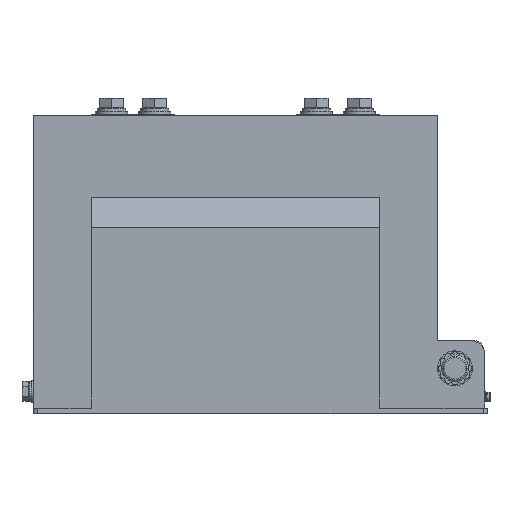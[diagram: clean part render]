
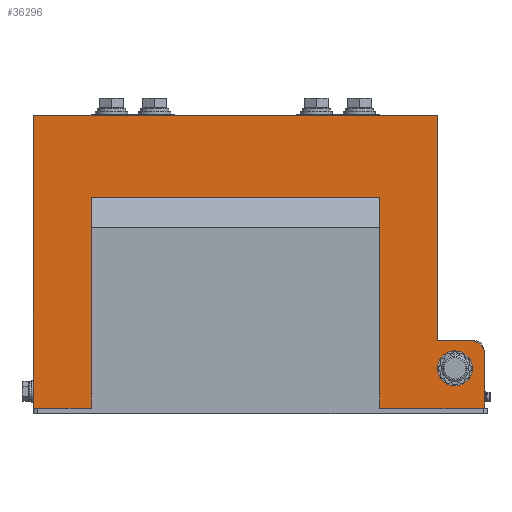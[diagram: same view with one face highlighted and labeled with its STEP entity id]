
A CAD part, top view. The second image highlights one B-rep face of the part: STEP entity #36296.
In plain terms, the highlighted planar face has unit normal (0, 0, 1).
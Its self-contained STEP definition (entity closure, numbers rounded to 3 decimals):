
#1321 = LINE ( 'NONE', #3038, #8954 ) ;
#1396 = VECTOR ( 'NONE', #25327, 1000. ) ;
#1553 = VECTOR ( 'NONE', #5542, 1000. ) ;
#1944 = AXIS2_PLACEMENT_3D ( 'NONE', #9623, #29611, #12498 ) ;
#2005 = DIRECTION ( 'NONE',  ( -1., 0., 0. ) ) ;
#2296 = LINE ( 'NONE', #8063, #1396 ) ;
#2789 = VERTEX_POINT ( 'NONE', #4777 ) ;
#3038 = CARTESIAN_POINT ( 'NONE',  ( 0., 156., 52. ) ) ;
#3381 = CARTESIAN_POINT ( 'NONE',  ( 185., 40., 52. ) ) ;
#3722 = CARTESIAN_POINT ( 'NONE',  ( 0., 0., 52. ) ) ;
#4267 = VECTOR ( 'NONE', #19962, 1000. ) ;
#4452 = VERTEX_POINT ( 'NONE', #3381 ) ;
#4492 = ORIENTED_EDGE ( 'NONE', *, *, #6462, .T. ) ;
#4506 = CARTESIAN_POINT ( 'NONE',  ( -150., 0., 52. ) ) ;
#4777 = CARTESIAN_POINT ( 'NONE',  ( -107., 0., 52. ) ) ;
#5542 = DIRECTION ( 'NONE',  ( -1., 0., 0. ) ) ;
#6462 = EDGE_CURVE ( 'NONE', #32813, #2789, #32285, .T. ) ;
#6899 = CARTESIAN_POINT ( 'NONE',  ( 185., 0., 52. ) ) ;
#7455 = CARTESIAN_POINT ( 'NONE',  ( 185., 0., 52. ) ) ;
#7693 = VECTOR ( 'NONE', #34810, 1000. ) ;
#8063 = CARTESIAN_POINT ( 'NONE',  ( 130., 50., 52. ) ) ;
#8202 = CARTESIAN_POINT ( 'NONE',  ( 0., 0., 52. ) ) ;
#8205 = ORIENTED_EDGE ( 'NONE', *, *, #32433, .T. ) ;
#8341 = DIRECTION ( 'NONE',  ( 0., 0., 1. ) ) ;
#8387 = EDGE_CURVE ( 'NONE', #32224, #4452, #19193, .T. ) ;
#8954 = VECTOR ( 'NONE', #20178, 1000. ) ;
#9034 = VERTEX_POINT ( 'NONE', #24592 ) ;
#9057 = ORIENTED_EDGE ( 'NONE', *, *, #24294, .F. ) ;
#9063 = FACE_BOUND ( 'NONE', #33711, .T. ) ;
#9623 = CARTESIAN_POINT ( 'NONE',  ( 0., 0., 52. ) ) ;
#9893 = EDGE_CURVE ( 'NONE', #4452, #13037, #20052, .T. ) ;
#10129 = VERTEX_POINT ( 'NONE', #20685 ) ;
#10267 = CIRCLE ( 'NONE', #32062, 13. ) ;
#11091 = DIRECTION ( 'NONE',  ( 1., 0., 0. ) ) ;
#12498 = DIRECTION ( 'NONE',  ( 1., 0., 0. ) ) ;
#12841 = EDGE_CURVE ( 'NONE', #32813, #30106, #15308, .T. ) ;
#12919 = DIRECTION ( 'NONE',  ( 0., 0., 1. ) ) ;
#13037 = VERTEX_POINT ( 'NONE', #24123 ) ;
#13364 = DIRECTION ( 'NONE',  ( 0., 1., 0. ) ) ;
#14404 = VECTOR ( 'NONE', #20859, 1000. ) ;
#14466 = EDGE_CURVE ( 'NONE', #19683, #9034, #1321, .T. ) ;
#14831 = VECTOR ( 'NONE', #11091, 1000. ) ;
#15063 = VERTEX_POINT ( 'NONE', #24699 ) ;
#15238 = CARTESIAN_POINT ( 'NONE',  ( 176., 29.5, 52. ) ) ;
#15308 = LINE ( 'NONE', #31923, #7693 ) ;
#15317 = AXIS2_PLACEMENT_3D ( 'NONE', #30028, #12919, #32932 ) ;
#15537 = DIRECTION ( 'NONE',  ( 0., 1., 0. ) ) ;
#17699 = VERTEX_POINT ( 'NONE', #20779 ) ;
#19119 = DIRECTION ( 'NONE',  ( 0., 0., 1. ) ) ;
#19193 = LINE ( 'NONE', #6899, #25897 ) ;
#19483 = CARTESIAN_POINT ( 'NONE',  ( -150., 217., 52. ) ) ;
#19683 = VERTEX_POINT ( 'NONE', #25849 ) ;
#19962 = DIRECTION ( 'NONE',  ( 0., 1., 0. ) ) ;
#20052 = CIRCLE ( 'NONE', #31063, 10. ) ;
#20178 = DIRECTION ( 'NONE',  ( 1., 0., 0. ) ) ;
#20620 = ORIENTED_EDGE ( 'NONE', *, *, #8387, .T. ) ;
#20685 = CARTESIAN_POINT ( 'NONE',  ( 150., 29.5, 52. ) ) ;
#20779 = CARTESIAN_POINT ( 'NONE',  ( 107., 0., 52. ) ) ;
#20859 = DIRECTION ( 'NONE',  ( 1., 0., 0. ) ) ;
#21897 = VECTOR ( 'NONE', #30609, 1000. ) ;
#22172 = ORIENTED_EDGE ( 'NONE', *, *, #31763, .T. ) ;
#22924 = EDGE_CURVE ( 'NONE', #25852, #13037, #2296, .T. ) ;
#22928 = EDGE_CURVE ( 'NONE', #17699, #32224, #30044, .T. ) ;
#23291 = ORIENTED_EDGE ( 'NONE', *, *, #29019, .T. ) ;
#24123 = CARTESIAN_POINT ( 'NONE',  ( 175., 50., 52. ) ) ;
#24241 = FACE_OUTER_BOUND ( 'NONE', #35923, .T. ) ;
#24262 = ORIENTED_EDGE ( 'NONE', *, *, #35108, .F. ) ;
#24294 = EDGE_CURVE ( 'NONE', #36272, #10129, #10267, .T. ) ;
#24592 = CARTESIAN_POINT ( 'NONE',  ( 107., 156., 52. ) ) ;
#24699 = CARTESIAN_POINT ( 'NONE',  ( 150., 217., 52. ) ) ;
#25327 = DIRECTION ( 'NONE',  ( 1., 0., 0. ) ) ;
#25445 = CARTESIAN_POINT ( 'NONE',  ( 150., 50., 52. ) ) ;
#25449 = CARTESIAN_POINT ( 'NONE',  ( 175., 40., 52. ) ) ;
#25589 = ORIENTED_EDGE ( 'NONE', *, *, #9893, .T. ) ;
#25849 = CARTESIAN_POINT ( 'NONE',  ( -107., 156., 52. ) ) ;
#25852 = VERTEX_POINT ( 'NONE', #25445 ) ;
#25897 = VECTOR ( 'NONE', #15537, 1000. ) ;
#26189 = LINE ( 'NONE', #37093, #4267 ) ;
#26428 = LINE ( 'NONE', #30495, #34091 ) ;
#27825 = CARTESIAN_POINT ( 'NONE',  ( -107., 0., 52. ) ) ;
#28335 = DIRECTION ( 'NONE',  ( -1., 0., 0. ) ) ;
#28429 = CARTESIAN_POINT ( 'NONE',  ( 0., 217., 52. ) ) ;
#28992 = PLANE ( 'NONE',  #1944 ) ;
#29019 = EDGE_CURVE ( 'NONE', #2789, #19683, #37096, .T. ) ;
#29611 = DIRECTION ( 'NONE',  ( 0., 0., 1. ) ) ;
#30028 = CARTESIAN_POINT ( 'NONE',  ( 163., 29.5, 52. ) ) ;
#30044 = LINE ( 'NONE', #8202, #14831 ) ;
#30106 = VERTEX_POINT ( 'NONE', #19483 ) ;
#30495 = CARTESIAN_POINT ( 'NONE',  ( 107., 0., 52. ) ) ;
#30609 = DIRECTION ( 'NONE',  ( 0., 1., 0. ) ) ;
#30999 = ORIENTED_EDGE ( 'NONE', *, *, #34397, .F. ) ;
#31063 = AXIS2_PLACEMENT_3D ( 'NONE', #25449, #8341, #28335 ) ;
#31470 = ORIENTED_EDGE ( 'NONE', *, *, #14466, .T. ) ;
#31763 = EDGE_CURVE ( 'NONE', #25852, #15063, #26189, .T. ) ;
#31923 = CARTESIAN_POINT ( 'NONE',  ( -150., 0., 52. ) ) ;
#31979 = LINE ( 'NONE', #28429, #1553 ) ;
#32062 = AXIS2_PLACEMENT_3D ( 'NONE', #36253, #19119, #2005 ) ;
#32224 = VERTEX_POINT ( 'NONE', #7455 ) ;
#32285 = LINE ( 'NONE', #3722, #14404 ) ;
#32433 = EDGE_CURVE ( 'NONE', #15063, #30106, #31979, .T. ) ;
#32813 = VERTEX_POINT ( 'NONE', #4506 ) ;
#32932 = DIRECTION ( 'NONE',  ( -1., 0., 0. ) ) ;
#33711 = EDGE_LOOP ( 'NONE', ( #9057, #30999 ) ) ;
#34091 = VECTOR ( 'NONE', #13364, 1000. ) ;
#34397 = EDGE_CURVE ( 'NONE', #10129, #36272, #35912, .T. ) ;
#34810 = DIRECTION ( 'NONE',  ( 0., 1., 0. ) ) ;
#34921 = ORIENTED_EDGE ( 'NONE', *, *, #12841, .F. ) ;
#35108 = EDGE_CURVE ( 'NONE', #17699, #9034, #26428, .T. ) ;
#35912 = CIRCLE ( 'NONE', #15317, 13. ) ;
#35923 = EDGE_LOOP ( 'NONE', ( #36053, #22172, #8205, #34921, #4492, #23291, #31470, #24262, #36121, #20620, #25589 ) ) ;
#36053 = ORIENTED_EDGE ( 'NONE', *, *, #22924, .F. ) ;
#36121 = ORIENTED_EDGE ( 'NONE', *, *, #22928, .T. ) ;
#36253 = CARTESIAN_POINT ( 'NONE',  ( 163., 29.5, 52. ) ) ;
#36272 = VERTEX_POINT ( 'NONE', #15238 ) ;
#36296 = ADVANCED_FACE ( 'NONE', ( #24241, #9063 ), #28992, .T. ) ;
#37093 = CARTESIAN_POINT ( 'NONE',  ( 150., 0., 52. ) ) ;
#37096 = LINE ( 'NONE', #27825, #21897 ) ;
